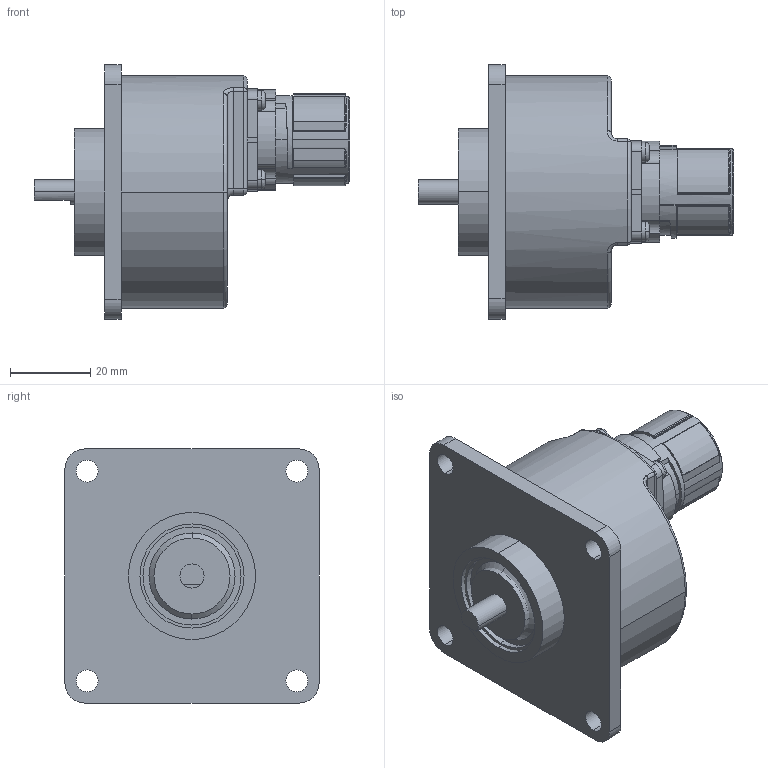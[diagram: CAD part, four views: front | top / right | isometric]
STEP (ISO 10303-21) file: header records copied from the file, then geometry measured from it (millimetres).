
FILE_DESCRIPTION (( 'STEP AP203' ), '1' );
FILE_NAME ('K58I.OXX.XXXXX.XS1Q506.6XAC4.step', '2025-12-08T16:16:47', ( '' ), ( '' ), 'SwSTEP 2.0', 'SolidWorks 2021', '' );
FILE_SCHEMA (( 'CONFIG_CONTROL_DESIGN' ));
Length unit declared in the file: millimetre
Products named in the file (1): K58I.OXX.XXXXX.XS1Q506.6XAC4
Bounding box: 78.79 x 63.5 x 63.5 mm (x, y, z)
Volume: 126870.6 mm3; surface area: 31295.8 mm2
Topology: 5 solids, 5 shells, 566 faces, 1447 edges, 925 vertices
Faces by surface type: cylinder 231, plane 176, bspline 98, sphere 36, torus 18, cone 7
Entity records: 23078 total; most frequent: CARTESIAN_POINT 9647, ORIENTED_EDGE 2834, DIRECTION 2700, EDGE_CURVE 1417, AXIS2_PLACEMENT_3D 1027, VERTEX_POINT 922, LINE 646, VECTOR 646
